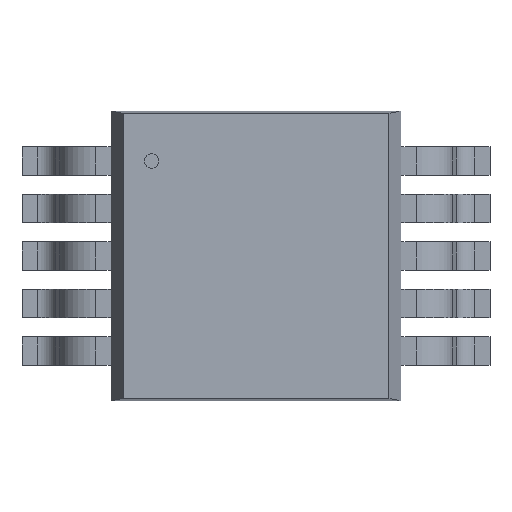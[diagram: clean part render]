
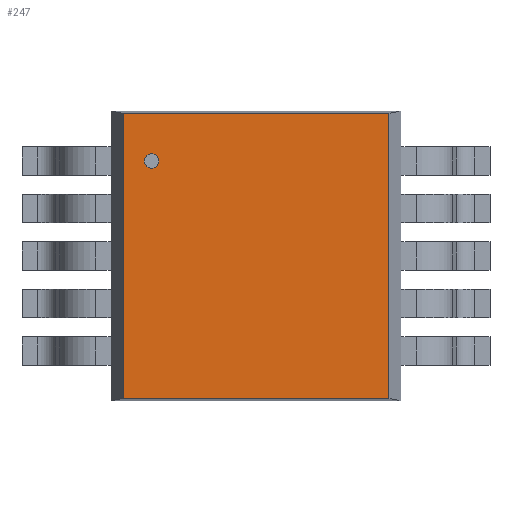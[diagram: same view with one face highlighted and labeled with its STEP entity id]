
A CAD part, top view. The second image highlights one B-rep face of the part: STEP entity #247.
In plain terms, the highlighted planar face has unit normal (0, 0, 1).
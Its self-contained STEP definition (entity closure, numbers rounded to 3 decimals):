
#247=ADVANCED_FACE('',(#253),#248,.T.);
#248=PLANE('',#249);
#249=AXIS2_PLACEMENT_3D('',#250,#251,#252);
#250=CARTESIAN_POINT('',(-1.422,-1.524,1.092));
#251=DIRECTION('',(0.0,0.0,1.0));
#252=DIRECTION('',(0.,1.,0.));
#253=FACE_OUTER_BOUND('',#254,.T.);
#254=EDGE_LOOP('',(#255,#265,#275,#285));
#258=CARTESIAN_POINT('',(1.422,-1.524,1.092));
#257=VERTEX_POINT('',#258);
#260=CARTESIAN_POINT('',(-1.422,-1.524,1.092));
#259=VERTEX_POINT('',#260);
#256=EDGE_CURVE('',#257,#259,#261,.T.);
#261=LINE('',#258,#263);
#263=VECTOR('',#264,2.845);
#264=DIRECTION('',(-1.0,0.0,0.0));
#255=ORIENTED_EDGE('',*,*,#256,.F.);
#268=CARTESIAN_POINT('',(1.422,1.524,1.092));
#267=VERTEX_POINT('',#268);
#266=EDGE_CURVE('',#267,#257,#271,.T.);
#271=LINE('',#268,#273);
#273=VECTOR('',#274,3.048);
#274=DIRECTION('',(0.0,-1.0,0.0));
#265=ORIENTED_EDGE('',*,*,#266,.F.);
#278=CARTESIAN_POINT('',(-1.422,1.524,1.092));
#277=VERTEX_POINT('',#278);
#276=EDGE_CURVE('',#277,#267,#281,.T.);
#281=LINE('',#278,#283);
#283=VECTOR('',#284,2.845);
#284=DIRECTION('',(1.0,0.0,0.0));
#275=ORIENTED_EDGE('',*,*,#276,.F.);
#286=EDGE_CURVE('',#259,#277,#291,.T.);
#291=LINE('',#260,#293);
#293=VECTOR('',#294,3.048);
#294=DIRECTION('',(0.0,1.0,0.0));
#285=ORIENTED_EDGE('',*,*,#286,.F.);
